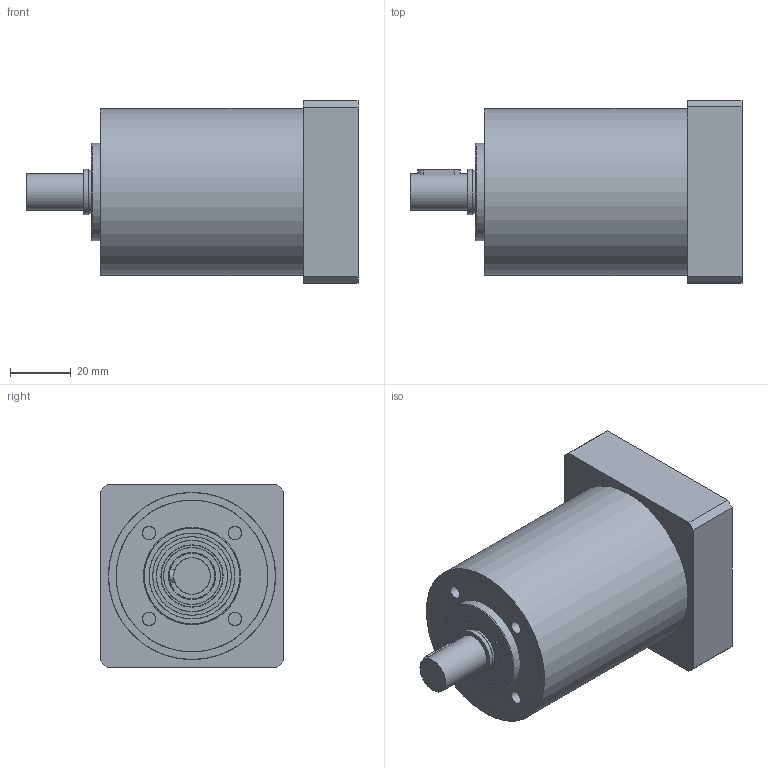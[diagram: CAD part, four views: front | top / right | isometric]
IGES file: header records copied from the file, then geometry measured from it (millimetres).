
Global section: file name: D:\ASSYCONF\WORK_DIRS\TEMP_#3\E00017964713MP040509080324_iges3D.igs; native system: NX V5.0; preprocessor: UGS NX IGES V5.0; date: 20090504.080444; units: millimetre
Bounding box: 109.3 x 60 x 60 mm (x, y, z)
Surface area: 59683.9 mm2 (no closed solid volume)
Topology: 0 solids, 0 shells, 140 faces, 2621 edges, 2541 vertices
Faces by surface type: revolution 90, extrusion 50
